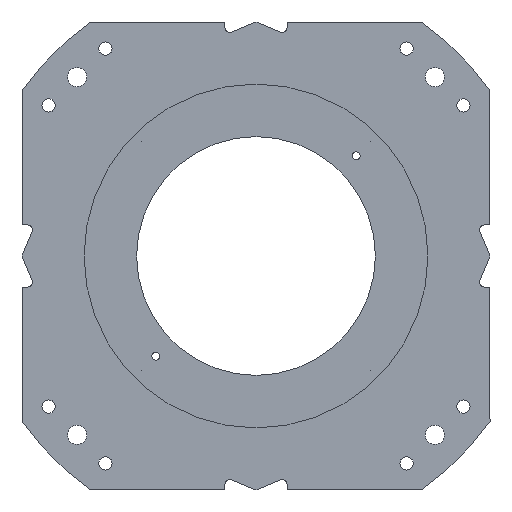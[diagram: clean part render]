
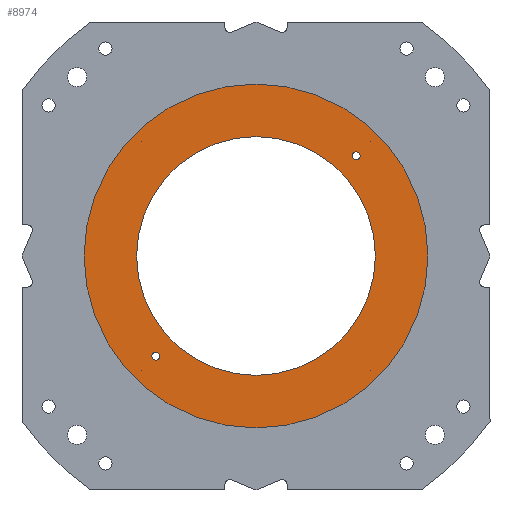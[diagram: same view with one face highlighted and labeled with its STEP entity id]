
A CAD part, front view. The second image highlights one B-rep face of the part: STEP entity #8974.
In plain terms, the highlighted planar face has unit normal (0, -1, 0).
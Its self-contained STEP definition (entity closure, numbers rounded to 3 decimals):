
#36 = AXIS2_PLACEMENT_3D ( 'NONE', #120, #71, #5767 ) ;
#71 = DIRECTION ( 'NONE',  ( 0., -1., 0. ) ) ;
#104 = ORIENTED_EDGE ( 'NONE', *, *, #1442, .F. ) ;
#120 = CARTESIAN_POINT ( 'NONE',  ( 0., 363., 0. ) ) ;
#207 = FACE_BOUND ( 'NONE', #5290, .T. ) ;
#756 = CIRCLE ( 'NONE', #4807, 4. ) ;
#779 = DIRECTION ( 'NONE',  ( 0., -1., 0. ) ) ;
#869 = VERTEX_POINT ( 'NONE', #1002 ) ;
#993 = DIRECTION ( 'NONE',  ( 0., 0., -1. ) ) ;
#1002 = CARTESIAN_POINT ( 'NONE',  ( -105., 363., -109. ) ) ;
#1326 = DIRECTION ( 'NONE',  ( 0., -1., 0. ) ) ;
#1367 = DIRECTION ( 'NONE',  ( 0., 0., -1. ) ) ;
#1377 = EDGE_CURVE ( 'NONE', #3128, #869, #5995, .T. ) ;
#1431 = CARTESIAN_POINT ( 'NONE',  ( 0., 363., -125. ) ) ;
#1434 = ORIENTED_EDGE ( 'NONE', *, *, #8368, .F. ) ;
#1442 = EDGE_CURVE ( 'NONE', #1473, #5806, #756, .T. ) ;
#1473 = VERTEX_POINT ( 'NONE', #1928 ) ;
#1865 = CIRCLE ( 'NONE', #4548, 4. ) ;
#1928 = CARTESIAN_POINT ( 'NONE',  ( 105., 363., 101. ) ) ;
#2055 = CARTESIAN_POINT ( 'NONE',  ( 0., 363., 0. ) ) ;
#2250 = FACE_OUTER_BOUND ( 'NONE', #4677, .T. ) ;
#2288 = DIRECTION ( 'NONE',  ( 0., 0., 1. ) ) ;
#2389 = VERTEX_POINT ( 'NONE', #3230 ) ;
#2495 = AXIS2_PLACEMENT_3D ( 'NONE', #7485, #7438, #6779 ) ;
#2673 = DIRECTION ( 'NONE',  ( 0., -1., 0. ) ) ;
#2938 = CIRCLE ( 'NONE', #8651, 180. ) ;
#3128 = VERTEX_POINT ( 'NONE', #3957 ) ;
#3230 = CARTESIAN_POINT ( 'NONE',  ( 0., 363., 180. ) ) ;
#3341 = CARTESIAN_POINT ( 'NONE',  ( 0., 363., 0. ) ) ;
#3500 = EDGE_CURVE ( 'NONE', #5806, #1473, #6536, .T. ) ;
#3522 = DIRECTION ( 'NONE',  ( 0., 1., 0. ) ) ;
#3620 = FACE_BOUND ( 'NONE', #7918, .T. ) ;
#3637 = DIRECTION ( 'NONE',  ( 0., 0., -1. ) ) ;
#3722 = CARTESIAN_POINT ( 'NONE',  ( 0., 363., 0. ) ) ;
#3957 = CARTESIAN_POINT ( 'NONE',  ( -105., 363., -101. ) ) ;
#4207 = DIRECTION ( 'NONE',  ( 0., 0., 1. ) ) ;
#4211 = VERTEX_POINT ( 'NONE', #6781 ) ;
#4374 = CIRCLE ( 'NONE', #7079, 180. ) ;
#4493 = EDGE_LOOP ( 'NONE', ( #7397, #5512 ) ) ;
#4548 = AXIS2_PLACEMENT_3D ( 'NONE', #8585, #2673, #6175 ) ;
#4645 = EDGE_CURVE ( 'NONE', #6978, #4211, #7979, .T. ) ;
#4677 = EDGE_LOOP ( 'NONE', ( #7411, #5625 ) ) ;
#4771 = DIRECTION ( 'NONE',  ( 0., 1., 0. ) ) ;
#4807 = AXIS2_PLACEMENT_3D ( 'NONE', #6996, #1326, #1367 ) ;
#4943 = ORIENTED_EDGE ( 'NONE', *, *, #4645, .F. ) ;
#5131 = AXIS2_PLACEMENT_3D ( 'NONE', #3722, #779, #3637 ) ;
#5231 = AXIS2_PLACEMENT_3D ( 'NONE', #5240, #8185, #993 ) ;
#5240 = CARTESIAN_POINT ( 'NONE',  ( -105., 363., -105. ) ) ;
#5290 = EDGE_LOOP ( 'NONE', ( #1434, #4943 ) ) ;
#5512 = ORIENTED_EDGE ( 'NONE', *, *, #7749, .F. ) ;
#5625 = ORIENTED_EDGE ( 'NONE', *, *, #5705, .F. ) ;
#5705 = EDGE_CURVE ( 'NONE', #6112, #2389, #4374, .T. ) ;
#5742 = CARTESIAN_POINT ( 'NONE',  ( 105., 363., 109. ) ) ;
#5767 = DIRECTION ( 'NONE',  ( 0., 0., -1. ) ) ;
#5806 = VERTEX_POINT ( 'NONE', #5742 ) ;
#5995 = CIRCLE ( 'NONE', #5231, 4. ) ;
#6112 = VERTEX_POINT ( 'NONE', #9022 ) ;
#6175 = DIRECTION ( 'NONE',  ( 0., 0., -1. ) ) ;
#6474 = PLANE ( 'NONE',  #36 ) ;
#6491 = CIRCLE ( 'NONE', #5131, 125. ) ;
#6513 = CARTESIAN_POINT ( 'NONE',  ( 0., 363., 0. ) ) ;
#6536 = CIRCLE ( 'NONE', #2495, 4. ) ;
#6779 = DIRECTION ( 'NONE',  ( 0., 0., -1. ) ) ;
#6781 = CARTESIAN_POINT ( 'NONE',  ( 0., 363., 125. ) ) ;
#6978 = VERTEX_POINT ( 'NONE', #1431 ) ;
#6996 = CARTESIAN_POINT ( 'NONE',  ( 105., 363., 105. ) ) ;
#7079 = AXIS2_PLACEMENT_3D ( 'NONE', #2055, #4771, #4207 ) ;
#7181 = FACE_BOUND ( 'NONE', #4493, .T. ) ;
#7269 = EDGE_CURVE ( 'NONE', #2389, #6112, #2938, .T. ) ;
#7397 = ORIENTED_EDGE ( 'NONE', *, *, #1377, .F. ) ;
#7411 = ORIENTED_EDGE ( 'NONE', *, *, #7269, .F. ) ;
#7438 = DIRECTION ( 'NONE',  ( 0., -1., 0. ) ) ;
#7485 = CARTESIAN_POINT ( 'NONE',  ( 105., 363., 105. ) ) ;
#7605 = DIRECTION ( 'NONE',  ( 0., -1., 0. ) ) ;
#7695 = ORIENTED_EDGE ( 'NONE', *, *, #3500, .F. ) ;
#7749 = EDGE_CURVE ( 'NONE', #869, #3128, #1865, .T. ) ;
#7756 = DIRECTION ( 'NONE',  ( 0., 0., -1. ) ) ;
#7918 = EDGE_LOOP ( 'NONE', ( #7695, #104 ) ) ;
#7979 = CIRCLE ( 'NONE', #9207, 125. ) ;
#8185 = DIRECTION ( 'NONE',  ( 0., -1., 0. ) ) ;
#8368 = EDGE_CURVE ( 'NONE', #4211, #6978, #6491, .T. ) ;
#8585 = CARTESIAN_POINT ( 'NONE',  ( -105., 363., -105. ) ) ;
#8651 = AXIS2_PLACEMENT_3D ( 'NONE', #6513, #3522, #2288 ) ;
#8974 = ADVANCED_FACE ( 'NONE', ( #7181, #3620, #207, #2250 ), #6474, .T. ) ;
#9022 = CARTESIAN_POINT ( 'NONE',  ( 0., 363., -180. ) ) ;
#9207 = AXIS2_PLACEMENT_3D ( 'NONE', #3341, #7605, #7756 ) ;
